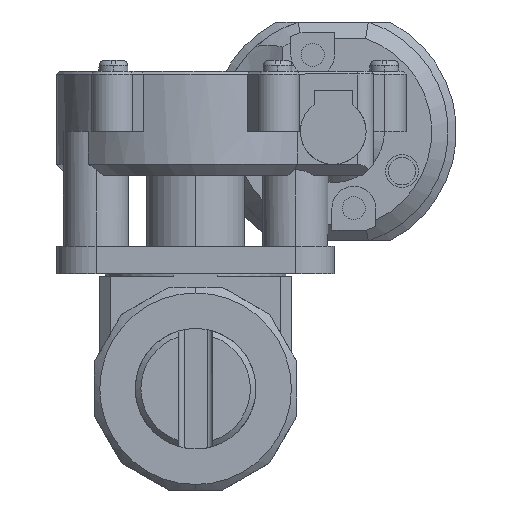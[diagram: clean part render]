
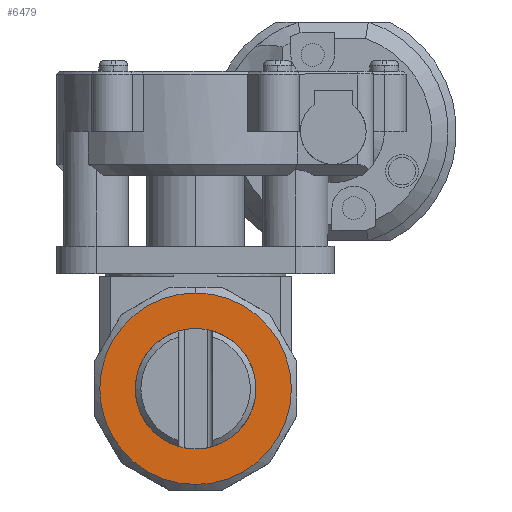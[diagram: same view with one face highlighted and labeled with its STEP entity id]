
A CAD part, left-side view. The second image highlights one B-rep face of the part: STEP entity #6479.
In plain terms, the highlighted planar face has unit normal (-1, 0, 0).
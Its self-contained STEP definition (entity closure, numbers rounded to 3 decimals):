
#496=CARTESIAN_POINT('',(-30.2,0.,0.));
#497=DIRECTION('',(1.,0.,0.));
#498=DIRECTION('',(0.,0.,-1.));
#499=AXIS2_PLACEMENT_3D('',#496,#497,#498);
#501=CARTESIAN_POINT('',(-30.2,0.,0.));
#502=DIRECTION('',(1.,0.,0.));
#503=DIRECTION('',(0.,0.,1.));
#504=AXIS2_PLACEMENT_3D('',#501,#502,#503);
#506=CARTESIAN_POINT('',(-30.2,0.,0.));
#507=DIRECTION('',(-1.,0.,0.));
#508=DIRECTION('',(0.,-1.,0.));
#509=AXIS2_PLACEMENT_3D('',#506,#507,#508);
#511=CARTESIAN_POINT('',(-30.2,0.,0.));
#512=DIRECTION('',(-1.,0.,0.));
#513=DIRECTION('',(0.,1.,0.));
#514=AXIS2_PLACEMENT_3D('',#511,#512,#513);
#4793=CARTESIAN_POINT('',(-30.2,0.,-17.5));
#4794=CARTESIAN_POINT('',(-30.2,0.,17.5));
#4795=VERTEX_POINT('',#4793);
#4796=VERTEX_POINT('',#4794);
#4797=CARTESIAN_POINT('',(-30.2,-11.,0.));
#4798=CARTESIAN_POINT('',(-30.2,11.,0.));
#4799=VERTEX_POINT('',#4797);
#4800=VERTEX_POINT('',#4798);
#6463=CARTESIAN_POINT('',(-30.2,0.,0.));
#6464=DIRECTION('',(1.,0.,0.));
#6465=DIRECTION('',(0.,1.,0.));
#6466=AXIS2_PLACEMENT_3D('',#6463,#6464,#6465);
#6467=PLANE('',#6466);
#6468=ORIENTED_EDGE('',*,*,#6443,.T.);
#6470=ORIENTED_EDGE('',*,*,#6469,.T.);
#6471=EDGE_LOOP('',(#6468,#6470));
#6472=FACE_OUTER_BOUND('',#6471,.F.);
#6474=ORIENTED_EDGE('',*,*,#6473,.T.);
#6476=ORIENTED_EDGE('',*,*,#6475,.T.);
#6477=EDGE_LOOP('',(#6474,#6476));
#6478=FACE_BOUND('',#6477,.F.);
#6479=ADVANCED_FACE('',(#6472,#6478),#6467,.F.);
#500=CIRCLE('',#499,17.5);
#505=CIRCLE('',#504,17.5);
#510=CIRCLE('',#509,11.);
#515=CIRCLE('',#514,11.);
#6443=EDGE_CURVE('',#4795,#4796,#500,.T.);
#6469=EDGE_CURVE('',#4796,#4795,#505,.T.);
#6473=EDGE_CURVE('',#4799,#4800,#510,.T.);
#6475=EDGE_CURVE('',#4800,#4799,#515,.T.);
